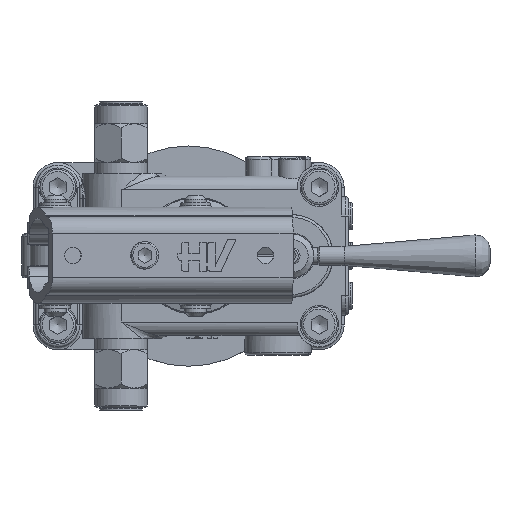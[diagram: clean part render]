
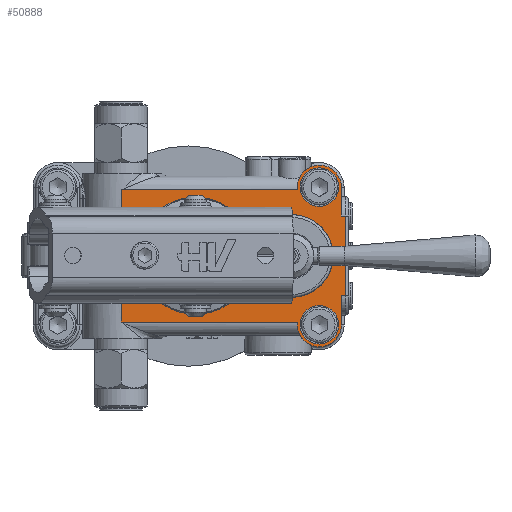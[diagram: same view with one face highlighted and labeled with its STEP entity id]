
A CAD part, top view. The second image highlights one B-rep face of the part: STEP entity #50888.
In plain terms, the highlighted planar face has unit normal (0, 0, 1).
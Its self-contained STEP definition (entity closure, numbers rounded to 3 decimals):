
#30293=CARTESIAN_POINT('',(96.,58.,43.));
#30294=VERTEX_POINT('',#30293);
#30302=CARTESIAN_POINT('',(96.,59.,43.));
#30303=VERTEX_POINT('',#30302);
#30304=CARTESIAN_POINT('',(96.,58.,43.));
#30305=DIRECTION('',(0.0,1.0,0.0));
#30306=VECTOR('',#30305,1.);
#30307=LINE('',#30304,#30306);
#30308=EDGE_CURVE('',#30294,#30303,#30307,.T.);
#30324=CARTESIAN_POINT('',(96.0,10.0,43.));
#30325=VERTEX_POINT('',#30324);
#30335=CARTESIAN_POINT('',(96.0,9.,43.));
#30336=VERTEX_POINT('',#30335);
#30343=CARTESIAN_POINT('',(96.,9.,43.));
#30344=DIRECTION('',(0.0,1.0,0.0));
#30345=VECTOR('',#30344,1.);
#30346=LINE('',#30343,#30345);
#30347=EDGE_CURVE('',#30336,#30325,#30346,.T.);
#30506=CARTESIAN_POINT('',(32.,44.122,43.));
#30507=VERTEX_POINT('',#30506);
#30556=CARTESIAN_POINT('',(33.732,41.0,43.));
#30557=VERTEX_POINT('',#30556);
#30565=CARTESIAN_POINT('',(33.732,41.0,43.));
#30566=CARTESIAN_POINT('',(33.732,41.528,43.));
#30567=CARTESIAN_POINT('',(33.438,42.767,43.));
#30568=CARTESIAN_POINT('',(32.582,43.719,43.));
#30569=CARTESIAN_POINT('',(32.,44.122,43.));
#30570=B_SPLINE_CURVE_WITH_KNOTS('',3,(#30565,#30566,#30567,#30568,#30569),.UNSPECIFIED.,.F.,.U.,(4,1,4),(2.696,2.855,3.066),.UNSPECIFIED.);
#30571=EDGE_CURVE('',#30557,#30507,#30570,.T.);
#30583=CARTESIAN_POINT('',(33.732,27.,43.));
#30584=VERTEX_POINT('',#30583);
#30592=CARTESIAN_POINT('',(33.732,27.,43.));
#30593=DIRECTION('',(0.0,1.0,0.0));
#30594=VECTOR('',#30593,14.);
#30595=LINE('',#30592,#30594);
#30596=EDGE_CURVE('',#30584,#30557,#30595,.T.);
#30629=CARTESIAN_POINT('',(32.,23.878,43.));
#30630=VERTEX_POINT('',#30629);
#30638=CARTESIAN_POINT('',(32.,23.878,43.));
#30639=CARTESIAN_POINT('',(32.433,24.178,43.));
#30640=CARTESIAN_POINT('',(33.336,25.067,43.));
#30641=CARTESIAN_POINT('',(33.732,26.29,43.0));
#30642=CARTESIAN_POINT('',(33.732,27.,43.));
#30643=B_SPLINE_CURVE_WITH_KNOTS('',3,(#30638,#30639,#30640,#30641,#30642),.UNSPECIFIED.,.F.,.U.,(4,1,4),(2.696,2.854,3.065),.UNSPECIFIED.);
#30644=EDGE_CURVE('',#30630,#30584,#30643,.T.);
#31373=CARTESIAN_POINT('',(112.0,59.,43.));
#31374=VERTEX_POINT('',#31373);
#31381=CARTESIAN_POINT('',(112.,48.5,43.));
#31382=VERTEX_POINT('',#31381);
#31383=CARTESIAN_POINT('',(112.0,59.,43.));
#31384=DIRECTION('',(0.0,-1.0,0.0));
#31385=VECTOR('',#31384,10.5);
#31386=LINE('',#31383,#31385);
#31387=EDGE_CURVE('',#31374,#31382,#31386,.T.);
#31502=CARTESIAN_POINT('',(112.0,19.5,43.));
#31503=VERTEX_POINT('',#31502);
#31511=CARTESIAN_POINT('',(112.,9.,43.));
#31512=VERTEX_POINT('',#31511);
#31513=CARTESIAN_POINT('',(112.,19.5,43.));
#31514=DIRECTION('',(0.0,-1.0,0.0));
#31515=VECTOR('',#31514,10.5);
#31516=LINE('',#31513,#31515);
#31517=EDGE_CURVE('',#31503,#31512,#31516,.T.);
#31849=CARTESIAN_POINT('',(113.5,48.5,43.));
#31850=VERTEX_POINT('',#31849);
#31860=CARTESIAN_POINT('',(112.,48.5,43.));
#31861=DIRECTION('',(1.0,0.0,0.0));
#31862=VECTOR('',#31861,1.5);
#31863=LINE('',#31860,#31862);
#31864=EDGE_CURVE('',#31382,#31850,#31863,.T.);
#31874=CARTESIAN_POINT('',(113.5,19.5,43.));
#31875=VERTEX_POINT('',#31874);
#31885=CARTESIAN_POINT('',(112.0,19.5,43.));
#31886=DIRECTION('',(1.0,0.0,0.0));
#31887=VECTOR('',#31886,1.5);
#31888=LINE('',#31885,#31887);
#31889=EDGE_CURVE('',#31503,#31875,#31888,.T.);
#32169=CARTESIAN_POINT('',(113.5,48.5,43.));
#32170=DIRECTION('',(0.0,-1.0,0.0));
#32171=VECTOR('',#32170,29.);
#32172=LINE('',#32169,#32171);
#32173=EDGE_CURVE('',#31850,#31875,#32172,.T.);
#33719=CARTESIAN_POINT('',(32.,10.0,43.));
#33720=VERTEX_POINT('',#33719);
#33751=CARTESIAN_POINT('',(96.0,10.0,43.));
#33752=DIRECTION('',(-1.0,0.0,0.0));
#33753=VECTOR('',#33752,64.);
#33754=LINE('',#33751,#33753);
#33755=EDGE_CURVE('',#30325,#33720,#33754,.T.);
#34438=CARTESIAN_POINT('',(32.,58.,43.));
#34439=VERTEX_POINT('',#34438);
#35297=CARTESIAN_POINT('',(96.,58.,43.));
#35298=DIRECTION('',(-1.0,0.0,0.0));
#35299=VECTOR('',#35298,64.);
#35300=LINE('',#35297,#35299);
#35301=EDGE_CURVE('',#30294,#34439,#35300,.T.);
#35327=CARTESIAN_POINT('',(104.,59.,43.));
#35328=DIRECTION('',(0.0,0.0,-1.0));
#35329=DIRECTION('',(1.0,0.0,0.0));
#35330=AXIS2_PLACEMENT_3D('',#35327,#35328,#35329);
#35331=CIRCLE('',#35330,8.0);
#35332=EDGE_CURVE('',#30303,#31374,#35331,.T.);
#35716=CARTESIAN_POINT('',(83.0,44.198,43.));
#35717=VERTEX_POINT('',#35716);
#35725=CARTESIAN_POINT('',(83.0,23.802,43.));
#35726=VERTEX_POINT('',#35725);
#35727=CARTESIAN_POINT('',(83.0,23.802,43.));
#35728=DIRECTION('',(0.0,1.0,0.0));
#35729=VECTOR('',#35728,20.396);
#35730=LINE('',#35727,#35729);
#35731=EDGE_CURVE('',#35726,#35717,#35730,.T.);
#35785=CARTESIAN_POINT('',(94.,34.0,43.));
#35786=DIRECTION('',(0.0,0.0,-1.0));
#35787=DIRECTION('',(-1.0,0.0,0.0));
#35788=AXIS2_PLACEMENT_3D('',#35785,#35786,#35787);
#35789=CIRCLE('',#35788,15.0);
#35790=EDGE_CURVE('',#35717,#35726,#35789,.T.);
#35829=CARTESIAN_POINT('',(104.0,9.,43.));
#35830=DIRECTION('',(0.0,0.0,-1.0));
#35831=DIRECTION('',(-1.0,0.0,0.0));
#35832=AXIS2_PLACEMENT_3D('',#35829,#35830,#35831);
#35833=CIRCLE('',#35832,8.0);
#35834=EDGE_CURVE('',#31512,#30336,#35833,.T.);
#36788=CARTESIAN_POINT('',(111.0,9.,43.));
#36789=VERTEX_POINT('',#36788);
#36790=CARTESIAN_POINT('',(104.0,9.,43.));
#36791=DIRECTION('',(0.0,0.0,-1.0));
#36792=DIRECTION('',(1.0,0.0,0.0));
#36793=AXIS2_PLACEMENT_3D('',#36790,#36791,#36792);
#36794=CIRCLE('',#36793,7.);
#36795=EDGE_CURVE('',#36789,#36789,#36794,.T.);
#36836=CARTESIAN_POINT('',(111.,59.,43.));
#36837=VERTEX_POINT('',#36836);
#36838=CARTESIAN_POINT('',(104.,59.,43.));
#36839=DIRECTION('',(0.0,0.0,-1.0));
#36840=DIRECTION('',(1.0,0.0,0.0));
#36841=AXIS2_PLACEMENT_3D('',#36838,#36839,#36840);
#36842=CIRCLE('',#36841,7.);
#36843=EDGE_CURVE('',#36837,#36837,#36842,.T.);
#37862=CARTESIAN_POINT('',(32.0,44.122,43.0));
#37863=DIRECTION('',(0.0,1.0,0.0));
#37864=VECTOR('',#37863,13.878);
#37865=LINE('',#37862,#37864);
#37866=EDGE_CURVE('',#30507,#34439,#37865,.T.);
#38055=CARTESIAN_POINT('',(32.0,10.,43.0));
#38056=DIRECTION('',(0.0,1.0,0.0));
#38057=VECTOR('',#38056,13.878);
#38058=LINE('',#38055,#38057);
#38059=EDGE_CURVE('',#33720,#30630,#38058,.T.);
#50844=CARTESIAN_POINT('',(104.,34.,43.));
#50845=DIRECTION('',(0.0,0.0,1.0));
#50846=DIRECTION('',(1.0,0.0,0.0));
#50847=AXIS2_PLACEMENT_3D('',#50844,#50845,#50846);
#50848=PLANE('',#50847);
#50849=ORIENTED_EDGE('',*,*,#32173,.F.);
#50850=ORIENTED_EDGE('',*,*,#31864,.F.);
#50851=ORIENTED_EDGE('',*,*,#31387,.F.);
#50852=ORIENTED_EDGE('',*,*,#35332,.F.);
#50853=ORIENTED_EDGE('',*,*,#30308,.F.);
#50854=ORIENTED_EDGE('',*,*,#35301,.T.);
#50855=ORIENTED_EDGE('',*,*,#37866,.F.);
#50856=ORIENTED_EDGE('',*,*,#30571,.F.);
#50857=ORIENTED_EDGE('',*,*,#30596,.F.);
#50858=ORIENTED_EDGE('',*,*,#30644,.F.);
#50859=ORIENTED_EDGE('',*,*,#38059,.F.);
#50860=ORIENTED_EDGE('',*,*,#33755,.F.);
#50861=ORIENTED_EDGE('',*,*,#30347,.F.);
#50862=ORIENTED_EDGE('',*,*,#35834,.F.);
#50863=ORIENTED_EDGE('',*,*,#31517,.F.);
#50864=ORIENTED_EDGE('',*,*,#31889,.T.);
#50865=EDGE_LOOP('',(#50849,#50850,#50851,#50852,#50853,#50854,#50855,#50856,#50857,#50858,#50859,#50860,#50861,#50862,#50863,#50864));
#50866=FACE_OUTER_BOUND('',#50865,.T.);
#50867=ORIENTED_EDGE('',*,*,#35790,.T.);
#50868=ORIENTED_EDGE('',*,*,#35731,.T.);
#50869=EDGE_LOOP('',(#50867,#50868));
#50870=FACE_BOUND('',#50869,.T.);
#50871=ORIENTED_EDGE('',*,*,#36795,.T.);
#50872=EDGE_LOOP('',(#50871));
#50873=FACE_BOUND('',#50872,.T.);
#50874=ORIENTED_EDGE('',*,*,#36843,.T.);
#50875=EDGE_LOOP('',(#50874));
#50876=FACE_BOUND('',#50875,.T.);
#50877=CARTESIAN_POINT('',(48.517,49.246,43.));
#50878=VERTEX_POINT('',#50877);
#50879=CARTESIAN_POINT('',(59.,34.0,43.));
#50880=DIRECTION('',(0.0,0.0,1.0));
#50881=DIRECTION('',(1.0,0.0,0.0));
#50882=AXIS2_PLACEMENT_3D('',#50879,#50880,#50881);
#50883=CIRCLE('',#50882,18.502);
#50884=EDGE_CURVE('',#50878,#50878,#50883,.T.);
#50885=ORIENTED_EDGE('',*,*,#50884,.F.);
#50886=EDGE_LOOP('',(#50885));
#50887=FACE_BOUND('',#50886,.T.);
#50888=ADVANCED_FACE('',(#50866,#50870,#50873,#50876,#50887),#50848,.T.);
